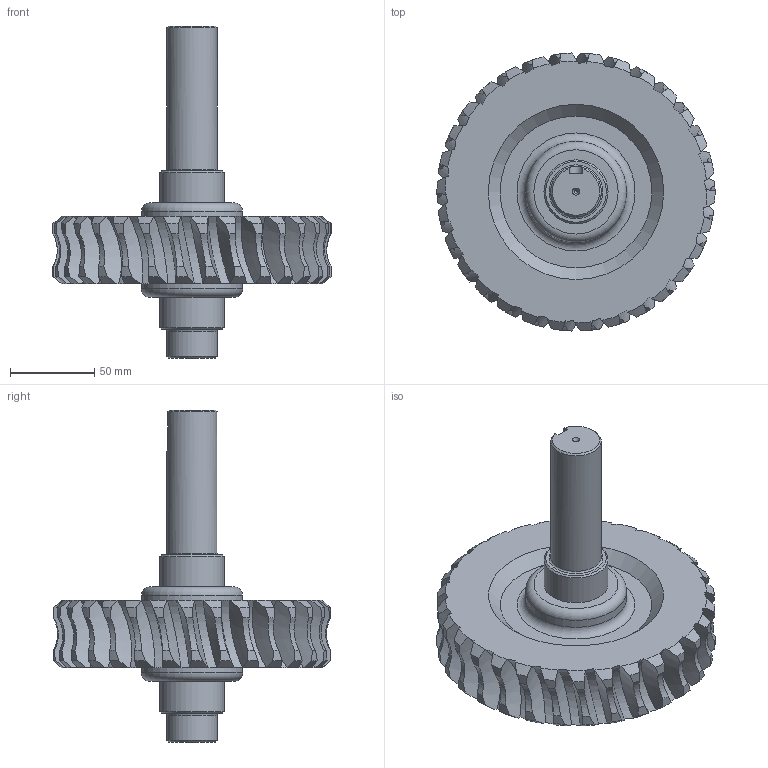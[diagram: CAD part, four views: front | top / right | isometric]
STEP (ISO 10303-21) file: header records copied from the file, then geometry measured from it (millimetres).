
FILE_DESCRIPTION(/* description */ (''),/* implementation_level */ '2;1');
FILE_NAME(/* name */ '',/* time_stamp */ '2025-05-23T15:32:20+09:00',/* author */ ('jhkim'),/* organization */ (''),/* preprocessor_version */ 'ST-DEVELOPER v20.1',/* originating_system */ 'Autodesk Inventor 2026',/* authorisation */ '');
FILE_SCHEMA (('AUTOMOTIVE_DESIGN { 1 0 10303 214 3 1 1 }'));
Length unit declared in the file: millimetre
Products named in the file (1): 웜 휠
Bounding box: 165 x 164.93 x 197 mm (x, y, z)
Volume: 822621.7 mm3; surface area: 96665.1 mm2
Topology: 1 solids, 1 shells, 278 faces, 799 edges, 531 vertices
Faces by surface type: cone 130, cylinder 99, torus 36, plane 13
Full cylindrical faces by diameter (mm): 2 x2, 30 x2, 38 x2, 60 x2
Entity records: 9989 total; most frequent: CARTESIAN_POINT 3283, ORIENTED_EDGE 1594, DIRECTION 1278, EDGE_CURVE 797, AXIS2_PLACEMENT_3D 626, VERTEX_POINT 531, B_SPLINE_CURVE_WITH_KNOTS 302, EDGE_LOOP 288
